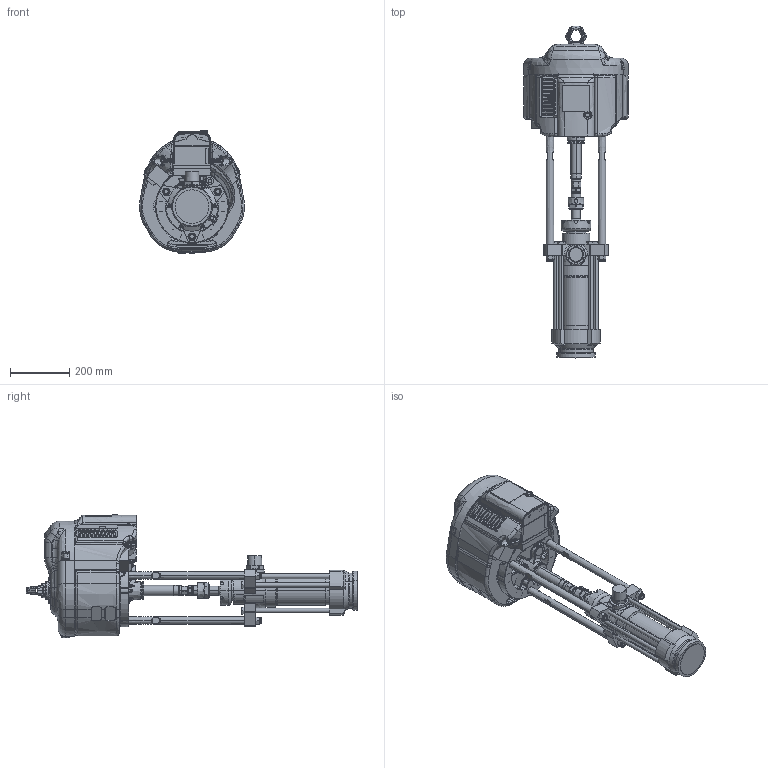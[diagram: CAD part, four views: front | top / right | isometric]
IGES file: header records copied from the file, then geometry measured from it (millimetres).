
Start section:  PTC IGES file: p06lck-en-zaa.igs
Global section: file name: p06lck-en-zaa.igs; native system: Creo Parametric by PTC Inc.; preprocessor: 2021072; author: qtmwp1; organization: Unknown; date: 20231107.144319; units: inch
Bounding box: 355.4 x 1124.03 x 417.43 mm (x, y, z)
Surface area: 2521108.4 mm2 (no closed solid volume)
Topology: 0 solids, 0 shells, 2703 faces, 15728 edges, 15720 vertices
Faces by surface type: revolution 1553, bspline 1150
